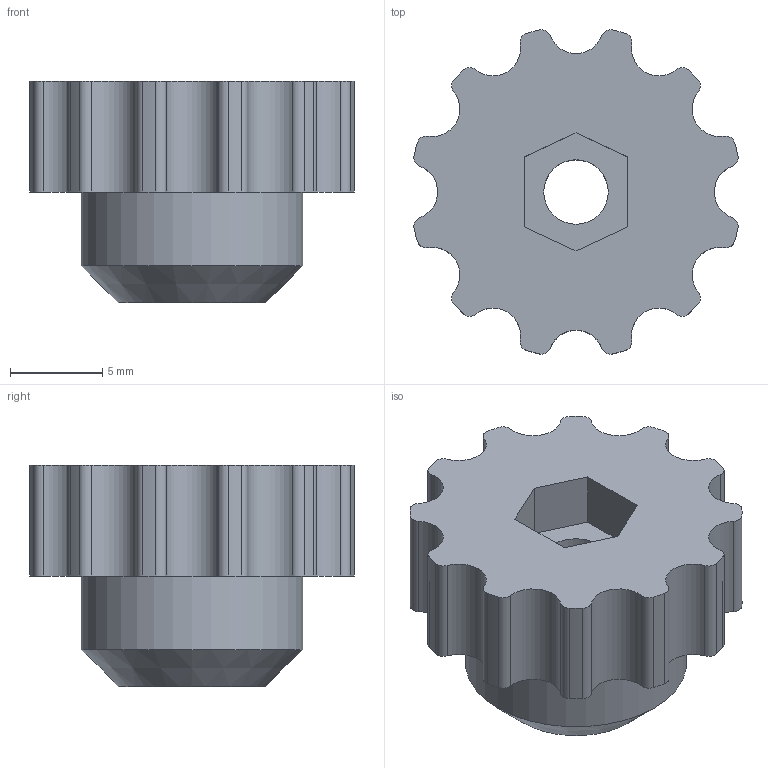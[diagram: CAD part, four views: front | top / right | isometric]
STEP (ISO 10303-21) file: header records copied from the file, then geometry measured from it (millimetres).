
FILE_DESCRIPTION(/* description */ (''),/* implementation_level */ '2;1');
FILE_NAME(/* name */ 'D:\3D печать\Мои проекты\Archy MK 2\STEP\колесо регулировки стола.stp',/* time_stamp */ '2019-03-20T22:07:10+06:00',/* author */ ('Пользователь'),/* organization */ (''),/* preprocessor_version */ 'ST-DEVELOPER v16.5',/* originating_system */ 'Autodesk Inventor 2017',/* authorisation */ '');
FILE_SCHEMA (('AUTOMOTIVE_DESIGN { 1 0 10303 214 3 1 1 }'));
Length unit declared in the file: millimetre
Products named in the file (1): колесо \X2\0440043504330443043B
04380440043E0432043A0438\X0\ стола
Bounding box: 17.58 x 17.58 x 12 mm (x, y, z)
Volume: 1714.2 mm3; surface area: 1157.2 mm2
Topology: 1 solids, 1 shells, 61 faces, 170 edges, 113 vertices
Faces by surface type: cylinder 50, plane 10, cone 1
Full cylindrical faces by diameter (mm): 3.5 x1, 12 x1
Entity records: 2030 total; most frequent: DIRECTION 392, CARTESIAN_POINT 342, ORIENTED_EDGE 334, EDGE_CURVE 167, AXIS2_PLACEMENT_3D 163, VERTEX_POINT 113, CIRCLE 101, EDGE_LOOP 68
